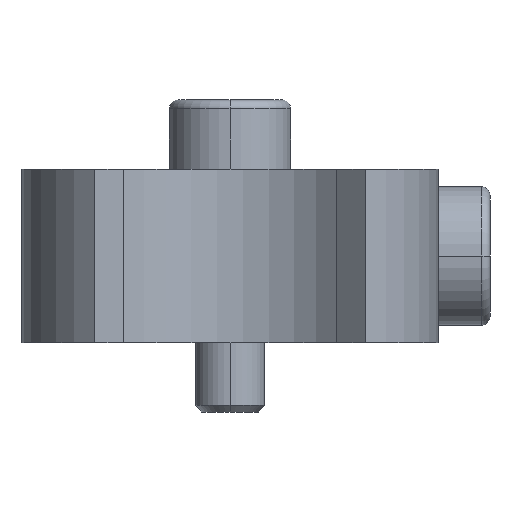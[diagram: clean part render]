
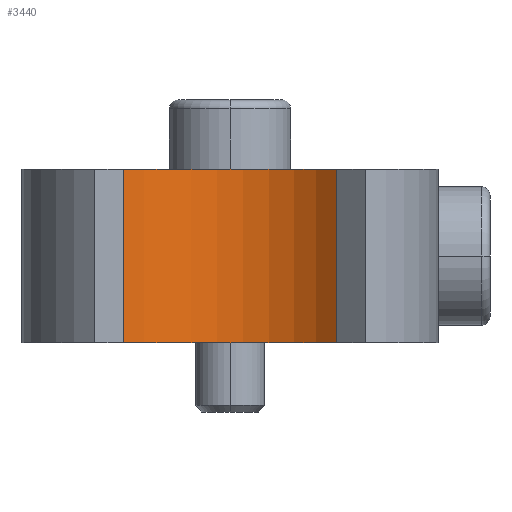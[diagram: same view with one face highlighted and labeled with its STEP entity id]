
A CAD part, front view. The second image highlights one B-rep face of the part: STEP entity #3440.
In plain terms, the highlighted cylindrical face has radius 8.696 mm (diameter 17.392 mm), a partial arc.
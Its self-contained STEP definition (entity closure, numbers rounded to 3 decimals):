
#101=CARTESIAN_POINT('',(0.,-3.2,-5.));
#102=DIRECTION('',(0.,0.,-1.));
#103=DIRECTION('',(-0.707,-0.707,0.));
#104=AXIS2_PLACEMENT_3D('',#101,#102,#103);
#876=CARTESIAN_POINT('',(0.,-3.2,5.));
#877=DIRECTION('',(0.,0.,-1.));
#878=DIRECTION('',(-0.707,-0.707,0.));
#879=AXIS2_PLACEMENT_3D('',#876,#877,#878);
#1494=DIRECTION('',(0.,0.,1.));
#1495=VECTOR('',#1494,10.);
#1496=CARTESIAN_POINT('',(-6.152,-9.346,-5.));
#1497=LINE('',#1496,#1495);
#1501=DIRECTION('',(0.,0.,1.));
#1502=VECTOR('',#1501,10.);
#1503=CARTESIAN_POINT('',(6.152,-9.346,-5.));
#1504=LINE('',#1503,#1502);
#2128=CARTESIAN_POINT('',(-6.152,-9.346,-5.));
#2129=VERTEX_POINT('',#2128);
#2130=CARTESIAN_POINT('',(6.152,-9.346,-5.));
#2131=VERTEX_POINT('',#2130);
#2244=CARTESIAN_POINT('',(-6.152,-9.346,5.));
#2245=VERTEX_POINT('',#2244);
#2246=CARTESIAN_POINT('',(6.152,-9.346,5.));
#2247=VERTEX_POINT('',#2246);
#3428=CARTESIAN_POINT('',(0.,-3.2,-5.));
#3429=DIRECTION('',(0.,0.,1.));
#3430=DIRECTION('',(1.,0.,0.));
#3431=AXIS2_PLACEMENT_3D('',#3428,#3429,#3430);
#3432=CYLINDRICAL_SURFACE('',#3431,8.696);
#3433=ORIENTED_EDGE('',*,*,#2417,.F.);
#3434=ORIENTED_EDGE('',*,*,#3423,.T.);
#3435=ORIENTED_EDGE('',*,*,#2669,.T.);
#3437=ORIENTED_EDGE('',*,*,#3436,.F.);
#3438=EDGE_LOOP('',(#3433,#3434,#3435,#3437));
#3439=FACE_OUTER_BOUND('',#3438,.F.);
#3440=ADVANCED_FACE('',(#3439),#3432,.F.);
#105=CIRCLE('',#104,8.696);
#880=CIRCLE('',#879,8.696);
#2417=EDGE_CURVE('',#2129,#2131,#105,.T.);
#2669=EDGE_CURVE('',#2245,#2247,#880,.T.);
#3423=EDGE_CURVE('',#2129,#2245,#1497,.T.);
#3436=EDGE_CURVE('',#2131,#2247,#1504,.T.);
